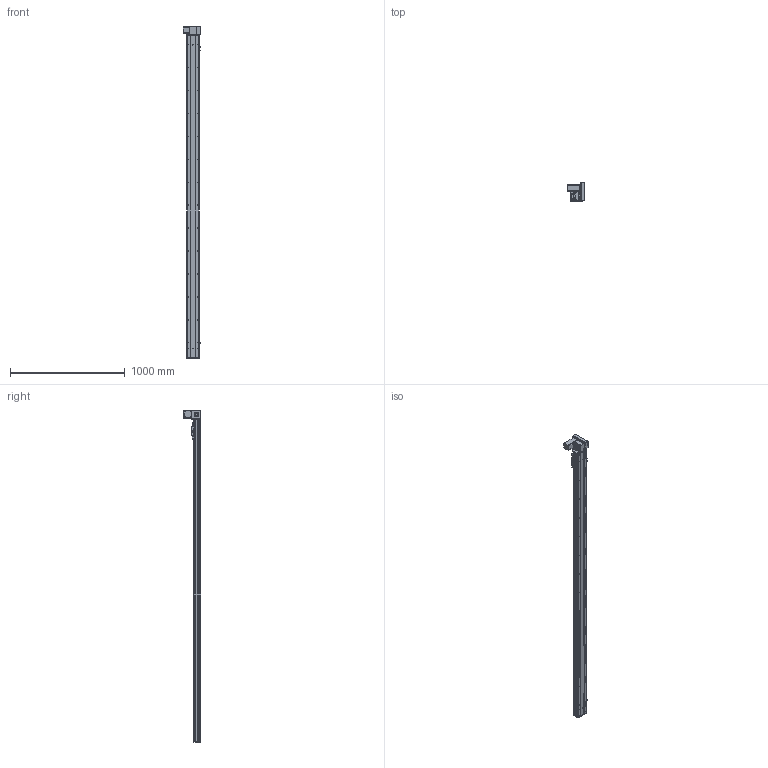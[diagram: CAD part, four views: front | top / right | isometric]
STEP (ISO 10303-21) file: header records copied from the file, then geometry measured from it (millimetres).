
FILE_DESCRIPTION (( 'STEP AP203' ), '1' );
FILE_NAME ('Y10CB-D90-S2550-UR-P400W.STEP', '2020-02-16T04:18:15', ( '微软用户' ), ( '微软中国' ), 'SwSTEP 2.0', 'SolidWorks 2017', '' );
FILE_SCHEMA (( 'CONFIG_CONTROL_DESIGN' ));
Length unit declared in the file: millimetre
Products named in the file (18): 0Cb-俋欶---; 0CB-雄赽釱---; Y10B-々湍喘謫眊楊擘啣--; Y10C---詩湍揤啣; 10CB9-掛极; 0B-萇儂楊擘啣; san松下电机400不带刹车----; 0B-源倛裔啣; Y135C-陔俋离換覜結え-; Y10B--々湍喘謫眊--666; Y100-135俋离換覜ん--; 10CB-耜裔; 0B-埴倛裔啣; Y10B-耜蚾蟀諉啣----; 00B-俋欶BM--; 10CB-詩湍-; Y10CB-D90-S2550-UR-P400W; Y10CB- 掛极耜裔啣-毀---
Assembly tree (21 placements, depth 2):
  Y10CB-D90-S2550-UR-P400W
    0CB-雄赽釱---
    0Cb-俋欶---
    Y10B-々湍喘謫眊楊擘啣--
    0B-萇儂楊擘啣
    san松下电机400不带刹车----
    0B-源倛裔啣
    0B-埴倛裔啣
    10CB-詩湍-
    Y10CB- 掛极耜裔啣-毀---  x2
    Y10C---詩湍揤啣  x2
    10CB9-掛极
    10CB-耜裔
    Y135C-陔俋离換覜結え-
    Y100-135俋离換覜ん--  x3
    Y10B--々湍喘謫眊--666
    Y10B-耜蚾蟀諉啣----
    00B-俋欶BM--
Bounding box: 157 x 155.5 x 2896 mm (x, y, z)
Volume: 5840487.1 mm3; surface area: 2776217 mm2
Topology: 21 solids, 21 shells, 1086 faces, 2963 edges, 1922 vertices
Faces by surface type: cylinder 569, plane 493, cone 24
Entity records: 34912 total; most frequent: CARTESIAN_POINT 6653, DIRECTION 5542, ORIENTED_EDGE 5396, EDGE_CURVE 2698, AXIS2_PLACEMENT_3D 1981, VERTEX_POINT 1748, VECTOR 1580, LINE 1580
